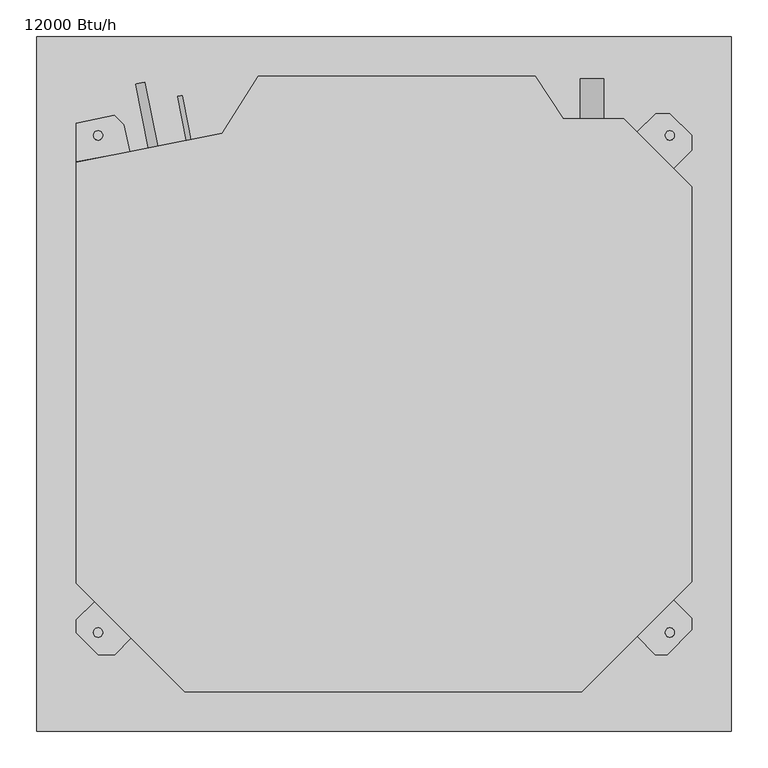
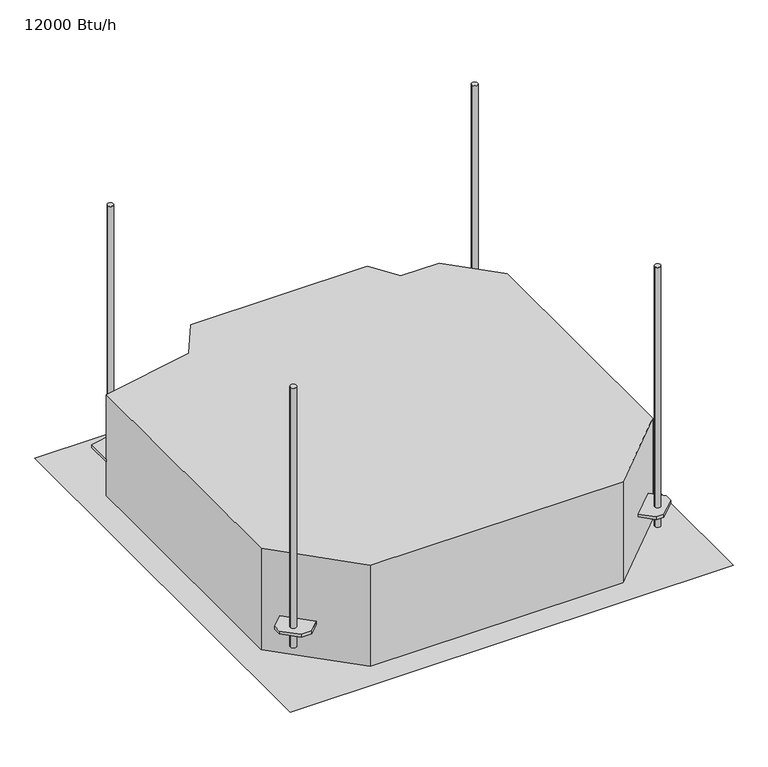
"""IFC4 building model written with IfcOpenShell, lengths in millimetres: proxy geometry, Heat_Pump_System-VRF-Lennox-Ceiling_Cassette-V33B_Series : 12000 Btu/h."""

from ifc_helpers import new_model, si_unit, point, frame, frame_2d, origin, origin_with_axes, place, context, project, spatial, polyline, circle_curve, ellipse_curve, trimmed, segment, composite_curve, outline, extrude, source, transform, mapped, element, save
from ifc_brep_helpers import plane_surface, cylinder_surface, advanced_brep


def proxy_12000_btu_h_a5151590(model_context):
    return source(origin(), model_context, "Body", "SolidModel", [
        advanced_brep(
        [(-270.0244769, 332.6995422, 76.6), (-263.7939395, 333.9254719, 76.6), (-266.9092082, 333.312507, 76.6), (-281.8416165, 392.757746, 76.6), (-275.6110791, 393.9836756, 76.6), (-278.7263478, 393.3707108, 76.6)],
        [
            (0, 1, circle_curve(frame((-266.9092082, 333.312507, 76.6), z_axis=(0.19305978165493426, -0.9811869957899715, 0.0), x_axis=(0.9811869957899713, 0.1930597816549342, 0.0)), 3.175)),
            (1, 2),
            (2, 0),
            (1, 0, circle_curve(frame((-266.9092082, 333.312507, 76.6), z_axis=(0.19305978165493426, -0.9811869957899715, 0.0), x_axis=(0.9811869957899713, 0.1930597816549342, 0.0)), 3.175)),
            (3, 4, circle_curve(frame((-278.7263478, 393.3707108, 76.6), z_axis=(0.19305978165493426, -0.9811869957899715, 0.0), x_axis=(0.9811869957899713, 0.1930597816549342, 0.0)), 3.175)),
            (4, 1),
            (0, 3),
            (4, 3, circle_curve(frame((-278.7263478, 393.3707108, 76.6), z_axis=(0.19305978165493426, -0.9811869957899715, 0.0), x_axis=(0.9811869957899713, 0.1930597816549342, 0.0)), 3.175)),
            (5, 4),
            (3, 5),
        ],
        [
            plane_surface(frame((-266.9092082, 333.312507, 76.6), z_axis=(0.19305978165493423, -0.9811869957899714, 0.0), x_axis=(0.9811869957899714, 0.19305978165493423, 0.0))),
            cylinder_surface(frame((-286.8962351, 434.892498, 76.6), z_axis=(-0.1930597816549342, 0.9811869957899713, 0.0), x_axis=(0.9811869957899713, 0.1930597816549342, 0.0)), 3.175),
            plane_surface(frame((-278.7263478, 393.3707108, 76.6), z_axis=(-0.19305978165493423, 0.9811869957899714, 0.0), x_axis=(0.9811869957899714, 0.19305978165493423, 0.0))),
        ],
        [
            (0, [[1, 2, 3]]),
            (0, [[4, -3, -2]]),
            (1, [[5, 6, -1, 7]]),
            (1, [[8, -7, -4, -6]]),
            (2, [[9, -5, 10]]),
            (2, [[-10, -8, -9]]),
        ],
    ),
        advanced_brep(
        [(-321.7974034, 322.4788033, 102.0), (-309.3377852, 324.9380537, 102.0), (-315.5675943, 323.7084285, 102.0), (-338.997197, 409.6203433, 102.0), (-326.5375787, 412.0795936, 102.0), (-332.7673878, 410.8499685, 102.0)],
        [
            (0, 1, circle_curve(frame((-315.5675943, 323.7084285, 102.0), z_axis=(0.19364175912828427, -0.9810723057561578, 0.0), x_axis=(0.9810723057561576, 0.1936417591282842, 0.0)), 6.35)),
            (1, 2),
            (2, 0),
            (1, 0, circle_curve(frame((-315.5675943, 323.7084285, 102.0), z_axis=(0.19364175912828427, -0.9810723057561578, 0.0), x_axis=(0.9810723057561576, 0.1936417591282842, 0.0)), 6.35)),
            (3, 4, circle_curve(frame((-332.7673878, 410.8499685, 102.0), z_axis=(0.19364175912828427, -0.9810723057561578, 0.0), x_axis=(0.9810723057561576, 0.1936417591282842, 0.0)), 6.35)),
            (4, 1),
            (0, 3),
            (4, 3, circle_curve(frame((-332.7673878, 410.8499685, 102.0), z_axis=(0.19364175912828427, -0.9810723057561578, 0.0), x_axis=(0.9810723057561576, 0.1936417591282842, 0.0)), 6.35)),
            (5, 4),
            (3, 5),
        ],
        [
            plane_surface(frame((-315.5675943, 323.7084285, 102.0), z_axis=(0.19364175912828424, -0.9810723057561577, 0.0), x_axis=(0.9810723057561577, 0.19364175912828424, 0.0))),
            cylinder_surface(frame((-338.9155137, 441.9990142, 102.0), z_axis=(-0.1936417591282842, 0.9810723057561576, 0.0), x_axis=(0.9810723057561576, 0.1936417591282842, 0.0)), 6.35),
            plane_surface(frame((-332.7673878, 410.8499685, 102.0), z_axis=(-0.19364175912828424, 0.9810723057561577, 0.0), x_axis=(0.9810723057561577, 0.19364175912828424, 0.0))),
        ],
        [
            (0, [[1, 2, 3]]),
            (0, [[4, -3, -2]]),
            (1, [[5, 6, -1, 7]]),
            (1, [[8, -7, -4, -6]]),
            (2, [[9, -5, 10]]),
            (2, [[-10, -8, -9]]),
        ],
    ),
        extrude(outline(composite_curve([segment(trimmed(circle_curve(frame_2d((165.5, 284.1166696)), 15.875), [point((165.5, 268.2416696))], [point((165.5, 299.9916696))], False, "CARTESIAN"), True, "CONTINUOUS"), segment(trimmed(circle_curve(frame_2d((165.5, 284.1166696)), 15.875), [point((165.5, 299.9916696))], [point((165.5, 268.2416696))], False, "CARTESIAN"), True, "CONTINUOUS")], self_intersect=False)), frame((0.0, 362.6637621, 0.0), z_axis=(0.0, 1.0, 0.0), x_axis=(0.0, 0.0, 1.0)), (0.0, 0.0, 1.0), 54.5217168),
        advanced_brep(
        [(-384.15, -339.5, 627.1854969), (-396.85, -339.5, 627.1854969), (-384.15, -339.5, 38.5), (-396.85, -339.5, 38.5), (-384.15, -339.5, 82.95), (-396.85, -339.5, 82.95), (-396.85, -339.5, 76.6), (-384.15, -339.5, 76.6), (-367.9974747, -369.4938, 82.95), (-345.3335843, -346.8023279, 82.95), (-395.0774029, -297.2585093, 82.95), (-420.497, -322.1791643, 82.95), (-420.497, -339.5, 82.95), (-390.5, -369.4938, 82.95), (-367.9974747, -369.4938, 76.6), (-390.5, -369.4938, 76.6), (-420.497, -339.5, 76.6), (-420.497, -322.1791643, 76.6), (-395.0774029, -297.2585093, 76.6), (-345.3335843, -346.8023279, 76.6)],
        [
            (0, 1, circle_curve(frame((-390.5, -339.5, 627.1854969), z_axis=(0.0, 0.0, 1.0), x_axis=(-1.0, 0.0, 0.0)), 6.35)),
            (1, 0, circle_curve(frame((-390.5, -339.5, 627.1854969), z_axis=(0.0, 0.0, 1.0), x_axis=(-1.0, 0.0, 0.0)), 6.35)),
            (2, 3, circle_curve(frame((-390.5, -339.5, 38.5), z_axis=(0.0, 0.0, -1.0), x_axis=(-1.0, 0.0, 0.0)), 6.35)),
            (3, 2, circle_curve(frame((-390.5, -339.5, 38.5), z_axis=(0.0, 0.0, -1.0), x_axis=(-1.0, 0.0, 0.0)), 6.35)),
            (0, 4),
            (4, 5, circle_curve(frame((-390.5, -339.5, 82.95), z_axis=(0.0, 0.0, 1.0), x_axis=(-1.0, 0.0, 0.0)), 6.35)),
            (5, 1),
            (3, 6),
            (6, 7, circle_curve(frame((-390.5, -339.5, 76.6), z_axis=(0.0, 0.0, -1.0), x_axis=(-1.0, 0.0, 0.0)), 6.35)),
            (7, 2),
            (5, 4, circle_curve(frame((-390.5, -339.5, 82.95), z_axis=(0.0, 0.0, 1.0), x_axis=(-1.0, 0.0, 0.0)), 6.35)),
            (7, 6, circle_curve(frame((-390.5, -339.5, 76.6), z_axis=(0.0, 0.0, -1.0), x_axis=(-1.0, 0.0, 0.0)), 6.35)),
            (8, 9),
            (9, 10),
            (10, 11),
            (11, 12),
            (12, 13),
            (13, 8),
            (14, 15),
            (15, 16),
            (16, 17),
            (17, 18),
            (18, 19),
            (19, 14),
            (8, 14),
            (19, 9),
            (10, 18),
            (17, 11),
            (16, 12),
            (15, 13),
        ],
        [
            plane_surface(frame((-396.85, -339.5, 627.1854969), z_axis=(0.0, 0.0, 1.0), x_axis=(0.0, -1.0, 0.0))),
            plane_surface(frame((-396.85, -339.5, 38.5), z_axis=(0.0, 0.0, -1.0), x_axis=(0.0, 1.0, 0.0))),
            cylinder_surface(frame((-390.5, -339.5, 38.5), z_axis=(0.0, 0.0, 1.0), x_axis=(-1.0, 0.0, 0.0)), 6.35),
            plane_surface(frame((395.6658777, -295.0900121, 82.95), z_axis=(0.0, 0.0, 1.0), x_axis=(-0.7107859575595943, 0.7034083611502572, 0.0))),
            plane_surface(frame((395.6658777, -295.0900121, 76.6), z_axis=(0.0, 0.0, -1.0), x_axis=(0.7107859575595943, -0.7034083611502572, 0.0))),
            plane_surface(frame((-367.9974747, -369.4938, 82.95), z_axis=(0.7075366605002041, -0.706676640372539, 0.0), x_axis=(0.0, 0.0, -1.0))),
            plane_surface(frame((-395.0774029, -297.2585093, 82.95), z_axis=(-0.700063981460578, 0.7140801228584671, 0.0), x_axis=(0.0, 0.0, -1.0))),
            plane_surface(frame((-420.497, -322.1791643, 82.95), z_axis=(-1.0, 0.0, 0.0), x_axis=(0.0, 0.0, -1.0))),
            plane_surface(frame((-420.497, -339.5, 82.95), z_axis=(-0.7070690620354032, -0.707144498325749, 0.0), x_axis=(0.0, 0.0, -1.0))),
            plane_surface(frame((-390.5, -369.4938, 82.95), z_axis=(0.0, -1.0, 0.0), x_axis=(0.0, 0.0, -1.0))),
            plane_surface(frame((-345.3335843, -346.8023279, 82.95), z_axis=(0.7056809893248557, 0.7085297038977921, 0.0), x_axis=(0.0, 0.0, -1.0))),
        ],
        [
            (0, [[1, 2]]),
            (1, [[3, 4]]),
            (2, [[-1, 5, 6, 7]]),
            (2, [[-4, 8, 9, 10]]),
            (2, [[-2, -7, 11, -5]]),
            (2, [[-3, -10, 12, -8]]),
            (3, [[13, 14, 15, 16, 17, 18], [-6, -11]]),
            (4, [[19, 20, 21, 22, 23, 24], [-9, -12]]),
            (5, [[-13, 25, -24, 26]]),
            (6, [[-15, 27, -22, 28]]),
            (7, [[-16, -28, -21, 29]]),
            (8, [[-17, -29, -20, 30]]),
            (9, [[-18, -30, -19, -25]]),
            (10, [[-14, -26, -23, -27]]),
        ],
    ),
        advanced_brep(
        [(396.85, -339.5, 627.1854969), (384.15, -339.5, 627.1854969), (396.85, -339.5, 38.5), (384.15, -339.5, 38.5), (396.85, -339.5, 82.95), (384.15, -339.5, 82.95), (384.15, -339.5, 76.6), (396.85, -339.5, 76.6), (420.497, -319.6634, 82.95), (395.6658777, -295.0900121, 82.95), (345.9327842, -344.6231057, 82.95), (370.7868978, -369.4938, 82.95), (386.933146, -369.4938, 82.95), (420.497, -335.933146, 82.95), (420.497, -319.6634, 76.6), (420.497, -335.933146, 76.6), (386.933146, -369.4938, 76.6), (370.7868978, -369.4938, 76.6), (345.9327842, -344.6231057, 76.6), (395.6658777, -295.0900121, 76.6)],
        [
            (0, 1, circle_curve(frame((390.5, -339.5, 627.1854969), z_axis=(0.0, 0.0, 1.0), x_axis=(-1.0, 0.0, 0.0)), 6.35)),
            (1, 0, circle_curve(frame((390.5, -339.5, 627.1854969), z_axis=(0.0, 0.0, 1.0), x_axis=(-1.0, 0.0, 0.0)), 6.35)),
            (2, 3, circle_curve(frame((390.5, -339.5, 38.5), z_axis=(0.0, 0.0, -1.0), x_axis=(-1.0, 0.0, 0.0)), 6.35)),
            (3, 2, circle_curve(frame((390.5, -339.5, 38.5), z_axis=(0.0, 0.0, -1.0), x_axis=(-1.0, 0.0, 0.0)), 6.35)),
            (0, 4),
            (4, 5, circle_curve(frame((390.5, -339.5, 82.95), z_axis=(0.0, 0.0, 1.0), x_axis=(-1.0, 0.0, 0.0)), 6.35)),
            (5, 1),
            (3, 6),
            (6, 7, circle_curve(frame((390.5, -339.5, 76.6), z_axis=(0.0, 0.0, -1.0), x_axis=(-1.0, 0.0, 0.0)), 6.35)),
            (7, 2),
            (5, 4, circle_curve(frame((390.5, -339.5, 82.95), z_axis=(0.0, 0.0, 1.0), x_axis=(-1.0, 0.0, 0.0)), 6.35)),
            (7, 6, circle_curve(frame((390.5, -339.5, 76.6), z_axis=(0.0, 0.0, -1.0), x_axis=(-1.0, 0.0, 0.0)), 6.35)),
            (8, 9),
            (9, 10),
            (10, 11),
            (11, 12),
            (12, 13),
            (13, 8),
            (14, 15),
            (15, 16),
            (16, 17),
            (17, 18),
            (18, 19),
            (19, 14),
            (10, 18),
            (17, 11),
            (16, 12),
            (15, 13),
            (14, 8),
            (19, 9),
        ],
        [
            plane_surface(frame((-396.85, -339.5, 627.1854969), z_axis=(0.0, 0.0, 1.0), x_axis=(0.0, -1.0, 0.0))),
            plane_surface(frame((-396.85, -339.5, 38.5), z_axis=(0.0, 0.0, -1.0), x_axis=(0.0, 1.0, 0.0))),
            cylinder_surface(frame((390.5, -339.5, -229.0), z_axis=(0.0, 0.0, 1.0), x_axis=(-1.0, 0.0, 0.0)), 6.35),
            plane_surface(frame((395.6658777, -295.0900121, 82.95), z_axis=(0.0, 0.0, 1.0), x_axis=(-0.7107859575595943, 0.7034083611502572, 0.0))),
            plane_surface(frame((395.6658777, -295.0900121, 76.6), z_axis=(0.0, 0.0, -1.0), x_axis=(0.7107859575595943, -0.7034083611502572, 0.0))),
            plane_surface(frame((345.9327842, -344.6231057, 82.95), z_axis=(-0.7073425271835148, -0.706870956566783, 0.0), x_axis=(0.0, 0.0, -1.0))),
            plane_surface(frame((370.7868978, -369.4938, 82.95), z_axis=(0.0, -1.0, 0.0), x_axis=(0.0, 0.0, -1.0))),
            plane_surface(frame((386.933146, -369.4938, 82.95), z_axis=(0.7070730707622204, -0.7071404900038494, 0.0), x_axis=(0.0, 0.0, -1.0))),
            plane_surface(frame((420.497, -335.933146, 82.95), z_axis=(1.0, 0.0, 0.0), x_axis=(0.0, 0.0, -1.0))),
            plane_surface(frame((420.497, -319.6634, 82.95), z_axis=(0.7034083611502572, 0.7107859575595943, 0.0), x_axis=(0.0, 0.0, -1.0))),
            plane_surface(frame((395.6658777, -295.0900121, 82.95), z_axis=(-0.7056806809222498, 0.7085300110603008, 0.0), x_axis=(0.0, 0.0, -1.0))),
        ],
        [
            (0, [[1, 2]]),
            (1, [[3, 4]]),
            (2, [[-1, 5, 6, 7]]),
            (2, [[-4, 8, 9, 10]]),
            (2, [[-2, -7, 11, -5]]),
            (2, [[-3, -10, 12, -8]]),
            (3, [[13, 14, 15, 16, 17, 18], [-6, -11]]),
            (4, [[19, 20, 21, 22, 23, 24], [-9, -12]]),
            (5, [[-15, 25, -22, 26]]),
            (6, [[-16, -26, -21, 27]]),
            (7, [[-17, -27, -20, 28]]),
            (8, [[-18, -28, -19, 29]]),
            (9, [[-13, -29, -24, 30]]),
            (10, [[-14, -30, -23, -25]]),
        ],
    ),
        advanced_brep(
        [(396.85, 339.5, 627.1854969), (384.15, 339.5, 627.1854969), (396.85, 339.5, 38.5), (384.15, 339.5, 38.5), (396.85, 339.5, 82.95), (384.15, 339.5, 82.95), (384.15, 339.5, 76.6), (396.85, 339.5, 76.6), (371.0025253, 369.4938, 82.95), (345.9646499, 344.4231555, 82.95), (395.65445, 294.9333553, 82.95), (420.497, 319.3483007, 82.95), (420.497, 339.5, 82.95), (390.5, 369.4938, 82.95), (371.0025253, 369.4938, 76.6), (390.5, 369.4938, 76.6), (420.497, 339.5, 76.6), (420.497, 319.3483007, 76.6), (395.65445, 294.9333553, 76.6), (345.9646499, 344.4231555, 76.6)],
        [
            (0, 1, circle_curve(frame((390.5, 339.5, 627.1854969), z_axis=(0.0, 0.0, 1.0), x_axis=(-1.0, 0.0, 0.0)), 6.35)),
            (1, 0, circle_curve(frame((390.5, 339.5, 627.1854969), z_axis=(0.0, 0.0, 1.0), x_axis=(-1.0, 0.0, 0.0)), 6.35)),
            (2, 3, circle_curve(frame((390.5, 339.5, 38.5), z_axis=(0.0, 0.0, -1.0), x_axis=(-1.0, 0.0, 0.0)), 6.35)),
            (3, 2, circle_curve(frame((390.5, 339.5, 38.5), z_axis=(0.0, 0.0, -1.0), x_axis=(-1.0, 0.0, 0.0)), 6.35)),
            (0, 4),
            (4, 5, circle_curve(frame((390.5, 339.5, 82.95), z_axis=(0.0, 0.0, 1.0), x_axis=(-1.0, 0.0, 0.0)), 6.35)),
            (5, 1),
            (3, 6),
            (6, 7, circle_curve(frame((390.5, 339.5, 76.6), z_axis=(0.0, 0.0, -1.0), x_axis=(-1.0, 0.0, 0.0)), 6.35)),
            (7, 2),
            (5, 4, circle_curve(frame((390.5, 339.5, 82.95), z_axis=(0.0, 0.0, 1.0), x_axis=(-1.0, 0.0, 0.0)), 6.35)),
            (7, 6, circle_curve(frame((390.5, 339.5, 76.6), z_axis=(0.0, 0.0, -1.0), x_axis=(-1.0, 0.0, 0.0)), 6.35)),
            (8, 9),
            (9, 10),
            (10, 11),
            (11, 12),
            (12, 13),
            (13, 8),
            (14, 15),
            (15, 16),
            (16, 17),
            (17, 18),
            (18, 19),
            (19, 14),
            (10, 18),
            (17, 11),
            (16, 12),
            (15, 13),
            (14, 8),
            (19, 9),
        ],
        [
            plane_surface(frame((-396.85, -339.5, 627.1854969), z_axis=(0.0, 0.0, 1.0), x_axis=(0.0, -1.0, 0.0))),
            plane_surface(frame((-396.85, -339.5, 38.5), z_axis=(0.0, 0.0, -1.0), x_axis=(0.0, 1.0, 0.0))),
            cylinder_surface(frame((390.5, 339.5, -229.0), z_axis=(0.0, 0.0, 1.0), x_axis=(-1.0, 0.0, 0.0)), 6.35),
            plane_surface(frame((395.6658777, -295.0900121, 82.95), z_axis=(0.0, 0.0, 1.0), x_axis=(-0.7107859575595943, 0.7034083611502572, 0.0))),
            plane_surface(frame((395.6658777, -295.0900121, 76.6), z_axis=(0.0, 0.0, -1.0), x_axis=(0.7107859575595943, -0.7034083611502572, 0.0))),
            plane_surface(frame((395.65445, 294.9333553, 82.95), z_axis=(0.7009419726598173, -0.7132183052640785, 0.0), x_axis=(0.0, 0.0, -1.0))),
            plane_surface(frame((420.497, 319.3483007, 82.95), z_axis=(1.0, 0.0, 0.0), x_axis=(0.0, 0.0, -1.0))),
            plane_surface(frame((420.497, 339.5, 82.95), z_axis=(0.7070690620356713, 0.707144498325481, 0.0), x_axis=(0.0, 0.0, -1.0))),
            plane_surface(frame((390.5, 369.4938, 82.95), z_axis=(0.0, 1.0, 0.0), x_axis=(0.0, 0.0, -1.0))),
            plane_surface(frame((371.0025253, 369.4938, 82.95), z_axis=(-0.7075690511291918, 0.7066442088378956, 0.0), x_axis=(0.0, 0.0, -1.0))),
            plane_surface(frame((345.9646499, 344.4231555, 82.95), z_axis=(-0.7056794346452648, -0.7085312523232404, 0.0), x_axis=(0.0, 0.0, -1.0))),
        ],
        [
            (0, [[1, 2]]),
            (1, [[3, 4]]),
            (2, [[-1, 5, 6, 7]]),
            (2, [[-4, 8, 9, 10]]),
            (2, [[-2, -7, 11, -5]]),
            (2, [[-3, -10, 12, -8]]),
            (3, [[13, 14, 15, 16, 17, 18], [-6, -11]]),
            (4, [[19, 20, 21, 22, 23, 24], [-9, -12]]),
            (5, [[-15, 25, -22, 26]]),
            (6, [[-16, -26, -21, 27]]),
            (7, [[-17, -27, -20, 28]]),
            (8, [[-18, -28, -19, 29]]),
            (9, [[-13, -29, -24, 30]]),
            (10, [[-14, -30, -23, -25]]),
        ],
    ),
        advanced_brep(
        [(-384.15, 339.5, 627.1854969), (-396.85, 339.5, 627.1854969), (-384.15, 339.5, 38.5), (-396.85, 339.5, 38.5), (-384.15, 339.5, 82.95), (-396.85, 339.5, 82.95), (-396.85, 339.5, 76.6), (-384.15, 339.5, 76.6), (-420.497, 356.3926136, 82.95), (-420.497, 303.3475221, 82.95), (-347.5425513, 317.4885504, 82.95), (-355.2974559, 354.2974559, 82.95), (-368.460212, 367.454012, 82.95), (-420.497, 356.3926136, 76.6), (-368.460212, 367.454012, 76.6), (-355.2974559, 354.2974559, 76.6), (-347.5425513, 317.4885504, 76.6), (-420.497, 303.3475221, 76.6)],
        [
            (0, 1, circle_curve(frame((-390.5, 339.5, 627.1854969), z_axis=(0.0, 0.0, 1.0), x_axis=(-1.0, 0.0, 0.0)), 6.35)),
            (1, 0, circle_curve(frame((-390.5, 339.5, 627.1854969), z_axis=(0.0, 0.0, 1.0), x_axis=(-1.0, 0.0, 0.0)), 6.35)),
            (2, 3, circle_curve(frame((-390.5, 339.5, 38.5), z_axis=(0.0, 0.0, -1.0), x_axis=(-1.0, 0.0, 0.0)), 6.35)),
            (3, 2, circle_curve(frame((-390.5, 339.5, 38.5), z_axis=(0.0, 0.0, -1.0), x_axis=(-1.0, 0.0, 0.0)), 6.35)),
            (0, 4),
            (4, 5, circle_curve(frame((-390.5, 339.5, 82.95), z_axis=(0.0, 0.0, 1.0), x_axis=(-1.0, 0.0, 0.0)), 6.35)),
            (5, 1),
            (3, 6),
            (6, 7, circle_curve(frame((-390.5, 339.5, 76.6), z_axis=(0.0, 0.0, -1.0), x_axis=(-1.0, 0.0, 0.0)), 6.35)),
            (7, 2),
            (5, 4, circle_curve(frame((-390.5, 339.5, 82.95), z_axis=(0.0, 0.0, 1.0), x_axis=(-1.0, 0.0, 0.0)), 6.35)),
            (7, 6, circle_curve(frame((-390.5, 339.5, 76.6), z_axis=(0.0, 0.0, -1.0), x_axis=(-1.0, 0.0, 0.0)), 6.35)),
            (8, 9),
            (9, 10),
            (10, 11),
            (11, 12),
            (12, 8),
            (13, 14),
            (14, 15),
            (15, 16),
            (16, 17),
            (17, 13),
            (8, 13),
            (17, 9),
            (10, 16),
            (15, 11),
            (14, 12),
        ],
        [
            plane_surface(frame((-396.85, -339.5, 627.1854969), z_axis=(0.0, 0.0, 1.0), x_axis=(0.0, -1.0, 0.0))),
            plane_surface(frame((-396.85, -339.5, 38.5), z_axis=(0.0, 0.0, -1.0), x_axis=(0.0, 1.0, 0.0))),
            cylinder_surface(frame((-390.5, 339.5, -229.0), z_axis=(0.0, 0.0, 1.0), x_axis=(-1.0, 0.0, 0.0)), 6.35),
            plane_surface(frame((395.6658777, -295.0900121, 82.95), z_axis=(0.0, 0.0, 1.0), x_axis=(-0.7107859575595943, 0.7034083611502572, 0.0))),
            plane_surface(frame((395.6658777, -295.0900121, 76.6), z_axis=(0.0, 0.0, -1.0), x_axis=(0.7107859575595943, -0.7034083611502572, 0.0))),
            plane_surface(frame((-420.497, 356.3926136, 82.95), z_axis=(-1.0, 0.0, 0.0), x_axis=(0.0, 0.0, -1.0))),
            plane_surface(frame((-347.5425513, 317.4885504, 82.95), z_axis=(0.9785194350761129, 0.20615459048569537, 0.0), x_axis=(0.0, 0.0, -1.0))),
            plane_surface(frame((-355.2974559, 354.2974559, 82.95), z_axis=(0.7069401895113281, 0.7072733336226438, 0.0), x_axis=(0.0, 0.0, -1.0))),
            plane_surface(frame((-368.460212, 367.454012, 82.95), z_axis=(-0.20792315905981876, 0.9781451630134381, 0.0), x_axis=(0.0, 0.0, -1.0))),
            plane_surface(frame((-420.497, 303.3475221, 82.95), z_axis=(0.19029185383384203, -0.9817275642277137, 0.0), x_axis=(0.0, 0.0, -1.0))),
        ],
        [
            (0, [[1, 2]]),
            (1, [[3, 4]]),
            (2, [[-1, 5, 6, 7]]),
            (2, [[-4, 8, 9, 10]]),
            (2, [[-2, -7, 11, -5]]),
            (2, [[-3, -10, 12, -8]]),
            (3, [[13, 14, 15, 16, 17], [-6, -11]]),
            (4, [[18, 19, 20, 21, 22], [-9, -12]]),
            (5, [[-13, 23, -22, 24]]),
            (6, [[-15, 25, -20, 26]]),
            (7, [[-16, -26, -19, 27]]),
            (8, [[-17, -27, -18, -23]]),
            (9, [[-14, -24, -21, -25]]),
        ],
    ),
        extrude(outline(polyline([(420.5, -269.9058898), (269.9058898, -420.5), (-271.8609122, -420.5), (-420.5, -271.8609122), (-420.5, 303.1476072), (-221.0865009, 342.3618204), (-171.6708706, 420.5), (206.4890403, 420.5), (245.0921409, 362.6637621), (327.5990432, 362.6637621), (420.5, 269.7628054), (420.5, -269.9058898)])), origin_with_axes(), (0.0, 0.0, 1.0), 229.0),
        advanced_brep(
        [(-474.5, 474.5, 0.0), (-354.8, 354.8, -44.45), (-354.8, -354.8, -44.45), (-474.5, -474.5, 0.0), (-304.8, 304.8, -44.45), (-304.8, 304.8, 0.0), (-304.8, -304.8, 0.0), (-304.8, -304.8, -44.45), (354.8, -354.8, -44.45), (474.5, -474.5, 0.0), (304.8, -304.8, 0.0), (304.8, -304.8, -44.45), (354.8, 354.8, -44.45), (474.5, 474.5, 0.0), (304.8, 304.8, 0.0), (304.8, 304.8, -44.45)],
        [
            (0, 1, ellipse_curve(frame((-354.8, 354.8, 138.9458661), z_axis=(-0.7071067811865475, -0.7071067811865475, 0.0), x_axis=(-0.7071067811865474, 0.7071067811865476, 0.0)), 259.3609212, 183.3958661)),
            (1, 2),
            (2, 3, ellipse_curve(frame((-354.8, -354.8, 138.9458661), z_axis=(-0.7071067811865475, 0.7071067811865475, 0.0), x_axis=(0.7071067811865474, 0.7071067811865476, 0.0)), 259.3609212, 183.3958661)),
            (3, 0),
            (4, 5),
            (5, 6),
            (6, 7),
            (7, 4),
            (2, 8),
            (8, 9, ellipse_curve(frame((354.8, -354.8, 138.9458661), z_axis=(-0.7071067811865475, -0.7071067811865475, 0.0), x_axis=(-0.7071067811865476, 0.7071067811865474, 0.0)), 259.3609212, 183.3958661)),
            (9, 3),
            (6, 10),
            (10, 11),
            (11, 7),
            (8, 12),
            (12, 13, ellipse_curve(frame((354.8, 354.8, 138.9458661), z_axis=(0.7071067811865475, -0.7071067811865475, 0.0), x_axis=(-0.7071067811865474, -0.7071067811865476, 0.0)), 259.3609212, 183.3958661)),
            (13, 9),
            (10, 14),
            (14, 15),
            (15, 11),
            (1, 12),
            (15, 4),
            (0, 13),
            (5, 14),
        ],
        [
            cylinder_surface(frame((-354.8, 304.8, 138.9458661), z_axis=(0.0, 1.0, 0.0), x_axis=(1.0, 0.0, 0.0)), 183.3958661),
            plane_surface(frame((-304.8, 304.8, 0.0), z_axis=(1.0, 0.0, 0.0), x_axis=(0.0, -1.0, 0.0))),
            cylinder_surface(frame((-304.8, -354.8, 138.9458661), z_axis=(-1.0, 0.0, 0.0), x_axis=(0.0, 1.0, 0.0)), 183.3958661),
            plane_surface(frame((-304.8, -304.8, 0.0), z_axis=(0.0, 1.0, 0.0), x_axis=(1.0, 0.0, 0.0))),
            cylinder_surface(frame((354.8, -304.8, 138.9458661), z_axis=(0.0, -1.0, 0.0), x_axis=(-1.0, 0.0, 0.0)), 183.3958661),
            plane_surface(frame((304.8, -304.8, 0.0), z_axis=(-1.0, 0.0, 0.0), x_axis=(0.0, 1.0, 0.0))),
            plane_surface(frame((304.8, 304.8, -44.45), z_axis=(0.0, 0.0, -1.0), x_axis=(-1.0, 0.0, 0.0))),
            cylinder_surface(frame((304.8, 354.8, 138.9458661), z_axis=(1.0, 0.0, 0.0), x_axis=(0.0, -1.0, 0.0)), 183.3958661),
            plane_surface(frame((474.5, 474.5, 0.0), z_axis=(0.0, 0.0, 1.0), x_axis=(-1.0, 0.0, 0.0))),
            plane_surface(frame((304.8, 304.8, 0.0), z_axis=(0.0, -1.0, 0.0), x_axis=(-1.0, 0.0, 0.0))),
        ],
        [
            (0, [[1, 2, 3, 4]]),
            (1, [[5, 6, 7, 8]]),
            (2, [[-3, 9, 10, 11]]),
            (3, [[-7, 12, 13, 14]]),
            (4, [[-10, 15, 16, 17]]),
            (5, [[-13, 18, 19, 20]]),
            (6, [[21, -15, -9, -2], [-14, -20, 22, -8]]),
            (7, [[-16, -21, -1, 23]]),
            (8, [[-11, -17, -23, -4], [24, -18, -12, -6]]),
            (9, [[-19, -24, -5, -22]]),
        ],
    ),
        extrude(outline(polyline([(304.8, 304.8), (304.8, -304.8), (-304.8, -304.8), (-304.8, 304.8), (304.8, 304.8)])), frame((0.0, 0.0, -44.45), z_axis=(0.0, 0.0, 1.0), x_axis=(1.0, 0.0, 0.0)), (0.0, 0.0, 1.0), 44.45),
    ])


if __name__ == "__main__":
    model = new_model("IFC4")
    model_context = context("Model", 3, world=origin())
    ifc_project = project(units=[si_unit("LENGTHUNIT", "METRE", prefix="MILLI")], contexts=[model_context])
    site = spatial("IfcSite", under=ifc_project)
    building = spatial("IfcBuilding", under=site)
    placement = place(None, origin())
    proxy_12000_btu_h_shape = proxy_12000_btu_h_a5151590(model_context)
    element("IfcBuildingElementProxy", 1, Name="Heat_Pump_System-VRF-Lennox-Ceiling_Cassette-V33B_Series : 12000 Btu/h", ObjectType="Heat_Pump_System-VRF-Lennox-Ceiling_Cassette-V33B_Series : 12000 Btu/h", at=placement, inside=building, context=model_context, shape_type="MappedRepresentation", body=[
        mapped(proxy_12000_btu_h_shape, transform((0.0, 0.0, 0.0), x_axis=(1.0, 0.0, 0.0), y_axis=(0.0, 1.0, 0.0), z_axis=(0.0, 0.0, 1.0))),
    ])
    save(model, "model.ifc")
